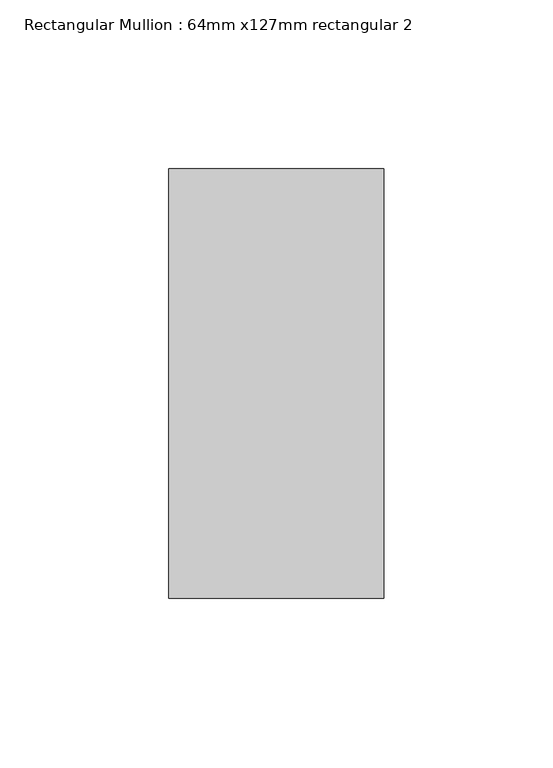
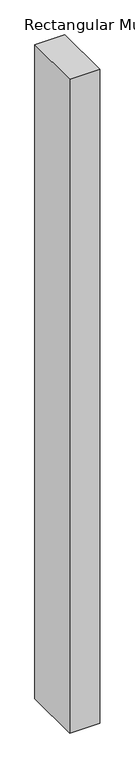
"""IFC4 building model written with IfcOpenShell, lengths in millimetres: member geometry, Rectangular Mullion : 64mm x127mm rectangular 2."""

from ifc_helpers import new_model, si_unit, frame, origin, place, context, project, spatial, polyline, outline, extrude, source, transform, mapped, element, save


def rectangular_mullion_64mm_x127mm_rectangular_2_f182018d(model_context):
    return source(origin(), model_context, "Body", "SweptSolid", [
        extrude(outline(polyline([(31.75, 63.5), (31.75, -63.5), (-31.75, -63.5), (-31.75, 63.5), (31.75, 63.5)])), frame((0.0, 0.0, -1460.5), z_axis=(0.0, 0.0, 1.0), x_axis=(1.0, 0.0, 0.0)), (0.0, 0.0, 1.0), 1460.5),
    ])


if __name__ == "__main__":
    model = new_model("IFC4")
    model_context = context("Model", 3, world=origin())
    ifc_project = project(units=[si_unit("LENGTHUNIT", "METRE", prefix="MILLI")], contexts=[model_context])
    site = spatial("IfcSite", under=ifc_project)
    building = spatial("IfcBuilding", under=site)
    placement = place(None, origin())
    rectangular_mullion_64mm_x127mm_rectangular_2_shape = rectangular_mullion_64mm_x127mm_rectangular_2_f182018d(model_context)
    element("IfcMember", 1, ObjectType="Rectangular Mullion : 64mm x127mm rectangular 2", at=placement, inside=building, context=model_context, shape_type="MappedRepresentation", body=[
        mapped(rectangular_mullion_64mm_x127mm_rectangular_2_shape, transform((0.0, 0.0, 0.0), x_axis=(1.0, 0.0, 0.0), y_axis=(0.0, 1.0, 0.0), z_axis=(0.0, 0.0, 1.0))),
    ])
    save(model, "model.ifc")
